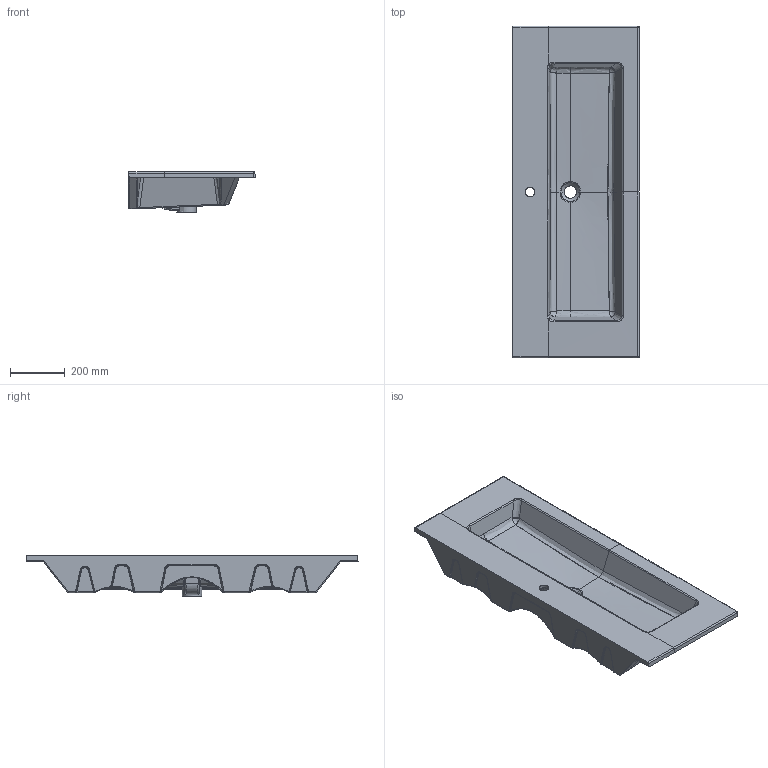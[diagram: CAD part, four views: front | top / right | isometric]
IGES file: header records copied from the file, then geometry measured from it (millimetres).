
Start section: START RECORD GO HERE.
Global section: file name: 7226.igs; native system: DASSAULT SYSTEMES CATIA V5 R19 - www.3ds.com; preprocessor: CATIA Version 5 Release 19 SP 5 ; author: gioge; organization: LAPTOP-G94B6G74; date: 20201002.171228; units: millimetre
Bounding box: 460.7 x 1211.4 x 147.5 mm (x, y, z)
Surface area: 1754362.9 mm2 (no closed solid volume)
Topology: 0 solids, 0 shells, 618 faces, 2866 edges, 2820 vertices
Faces by surface type: bspline 398, revolution 183, plane 33, extrusion 4
